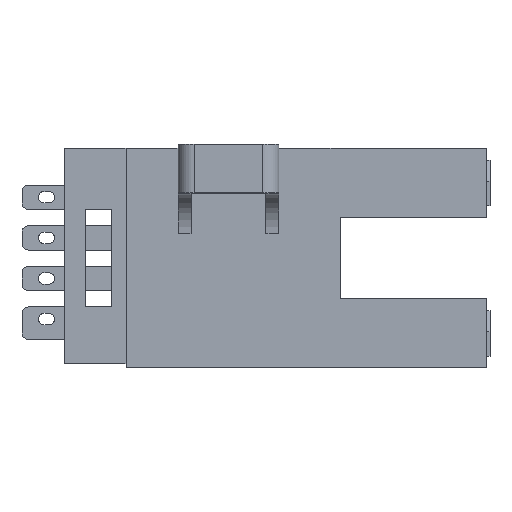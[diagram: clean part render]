
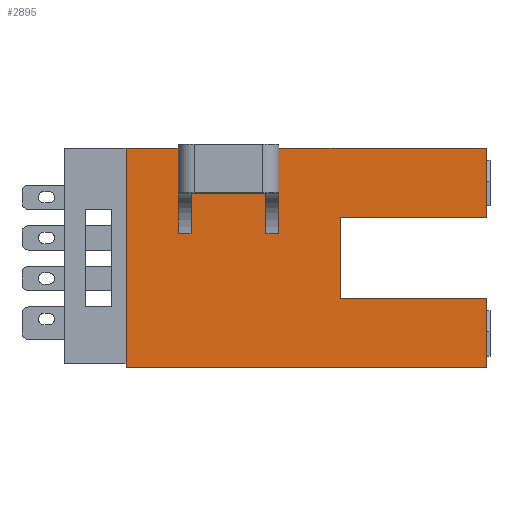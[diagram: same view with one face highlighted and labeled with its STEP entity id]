
A CAD part, top view. The second image highlights one B-rep face of the part: STEP entity #2895.
In plain terms, the highlighted planar face has unit normal (0, 0, 1).
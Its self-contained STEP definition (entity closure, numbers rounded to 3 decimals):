
#25 = CARTESIAN_POINT ( 'NONE',  ( 17.7, -4.65, 6.8 ) ) ;
#32 = VECTOR ( 'NONE', #4372, 1000. ) ;
#133 = VECTOR ( 'NONE', #777, 1000. ) ;
#163 = LINE ( 'NONE', #3323, #4191 ) ;
#191 = VECTOR ( 'NONE', #6926, 1000. ) ;
#227 = VERTEX_POINT ( 'NONE', #4916 ) ;
#247 = PLANE ( 'NONE',  #3575 ) ;
#262 = CARTESIAN_POINT ( 'NONE',  ( 26.7, -0.4, 6.8 ) ) ;
#325 = CARTESIAN_POINT ( 'NONE',  ( 26.7, -4.65, 6.8 ) ) ;
#360 = DIRECTION ( 'NONE',  ( -1., 0., 0. ) ) ;
#478 = CARTESIAN_POINT ( 'NONE',  ( 4.5, -0.4, 6.8 ) ) ;
#777 = DIRECTION ( 'NONE',  ( 0., -1., 0. ) ) ;
#805 = CARTESIAN_POINT ( 'NONE',  ( 13.9, -5.65, 6.8 ) ) ;
#844 = ORIENTED_EDGE ( 'NONE', *, *, #4371, .T. ) ;
#861 = CARTESIAN_POINT ( 'NONE',  ( 7.7, -5.65, 6.8 ) ) ;
#927 = VECTOR ( 'NONE', #3667, 1000. ) ;
#1260 = CARTESIAN_POINT ( 'NONE',  ( 13.1, -5.65, 6.8 ) ) ;
#1352 = LINE ( 'NONE', #7711, #8750 ) ;
#1393 = VECTOR ( 'NONE', #5013, 1000. ) ;
#1420 = LINE ( 'NONE', #9541, #133 ) ;
#1455 = ORIENTED_EDGE ( 'NONE', *, *, #6755, .T. ) ;
#1481 = LINE ( 'NONE', #1260, #6419 ) ;
#1506 = VECTOR ( 'NONE', #5611, 1000. ) ;
#1529 = LINE ( 'NONE', #5378, #4165 ) ;
#1674 = CARTESIAN_POINT ( 'NONE',  ( 17.7, -4.65, 6.8 ) ) ;
#1847 = LINE ( 'NONE', #2034, #8437 ) ;
#1960 = CARTESIAN_POINT ( 'NONE',  ( 13.1, -3.15, 6.8 ) ) ;
#1993 = VERTEX_POINT ( 'NONE', #325 ) ;
#2034 = CARTESIAN_POINT ( 'NONE',  ( 13.9, -0.4, 6.8 ) ) ;
#2075 = EDGE_CURVE ( 'NONE', #3948, #8489, #7493, .T. ) ;
#2088 = ORIENTED_EDGE ( 'NONE', *, *, #6695, .F. ) ;
#2107 = VERTEX_POINT ( 'NONE', #7437 ) ;
#2127 = VERTEX_POINT ( 'NONE', #805 ) ;
#2128 = VECTOR ( 'NONE', #7081, 1000. ) ;
#2139 = EDGE_CURVE ( 'NONE', #3181, #2107, #1420, .T. ) ;
#2172 = CARTESIAN_POINT ( 'NONE',  ( 13.9, -0.4, 6.8 ) ) ;
#2295 = LINE ( 'NONE', #478, #6559 ) ;
#2333 = CARTESIAN_POINT ( 'NONE',  ( 17.7, -9.65, 6.8 ) ) ;
#2472 = ORIENTED_EDGE ( 'NONE', *, *, #9259, .T. ) ;
#2524 = LINE ( 'NONE', #3459, #1506 ) ;
#2581 = CARTESIAN_POINT ( 'NONE',  ( 26.7, -13.9, 6.8 ) ) ;
#2636 = DIRECTION ( 'NONE',  ( 1., 0., 0. ) ) ;
#2653 = DIRECTION ( 'NONE',  ( 1., 0., 0. ) ) ;
#2895 = ADVANCED_FACE ( 'NONE', ( #4163 ), #247, .T. ) ;
#2959 = CARTESIAN_POINT ( 'NONE',  ( 4.5, -0.3, 6.8 ) ) ;
#3097 = VERTEX_POINT ( 'NONE', #8532 ) ;
#3181 = VERTEX_POINT ( 'NONE', #6441 ) ;
#3221 = EDGE_CURVE ( 'NONE', #3097, #7171, #9013, .T. ) ;
#3323 = CARTESIAN_POINT ( 'NONE',  ( 26.7, -4.65, 6.8 ) ) ;
#3381 = EDGE_CURVE ( 'NONE', #5095, #4312, #6681, .T. ) ;
#3459 = CARTESIAN_POINT ( 'NONE',  ( 13.9, -3.15, 6.8 ) ) ;
#3575 = AXIS2_PLACEMENT_3D ( 'NONE', #8439, #8512, #7063 ) ;
#3601 = VERTEX_POINT ( 'NONE', #262 ) ;
#3667 = DIRECTION ( 'NONE',  ( 0., 1., 0. ) ) ;
#3719 = ORIENTED_EDGE ( 'NONE', *, *, #2139, .T. ) ;
#3744 = LINE ( 'NONE', #6295, #8826 ) ;
#3877 = DIRECTION ( 'NONE',  ( -1., 0., 0. ) ) ;
#3948 = VERTEX_POINT ( 'NONE', #6421 ) ;
#3964 = ORIENTED_EDGE ( 'NONE', *, *, #4478, .T. ) ;
#4039 = VECTOR ( 'NONE', #4137, 1000. ) ;
#4127 = CARTESIAN_POINT ( 'NONE',  ( 7.7, -0.4, 6.8 ) ) ;
#4137 = DIRECTION ( 'NONE',  ( 0., -1., 0. ) ) ;
#4163 = FACE_OUTER_BOUND ( 'NONE', #7508, .T. ) ;
#4165 = VECTOR ( 'NONE', #3877, 1000. ) ;
#4191 = VECTOR ( 'NONE', #2636, 1000. ) ;
#4305 = DIRECTION ( 'NONE',  ( -1., 0., 0. ) ) ;
#4312 = VERTEX_POINT ( 'NONE', #861 ) ;
#4371 = EDGE_CURVE ( 'NONE', #5111, #227, #3744, .T. ) ;
#4372 = DIRECTION ( 'NONE',  ( 0., 1., 0. ) ) ;
#4475 = EDGE_CURVE ( 'NONE', #8261, #1993, #163, .T. ) ;
#4478 = EDGE_CURVE ( 'NONE', #1993, #3601, #7894, .T. ) ;
#4495 = VECTOR ( 'NONE', #4305, 1000. ) ;
#4576 = LINE ( 'NONE', #6181, #191 ) ;
#4864 = DIRECTION ( 'NONE',  ( 1., 0., 0. ) ) ;
#4916 = CARTESIAN_POINT ( 'NONE',  ( 26.7, -9.65, 6.8 ) ) ;
#5013 = DIRECTION ( 'NONE',  ( 0., 1., 0. ) ) ;
#5095 = VERTEX_POINT ( 'NONE', #4127 ) ;
#5111 = VERTEX_POINT ( 'NONE', #6268 ) ;
#5364 = VERTEX_POINT ( 'NONE', #2172 ) ;
#5378 = CARTESIAN_POINT ( 'NONE',  ( 26.7, -13.9, 6.8 ) ) ;
#5402 = EDGE_CURVE ( 'NONE', #5563, #8261, #7618, .T. ) ;
#5563 = VERTEX_POINT ( 'NONE', #2333 ) ;
#5611 = DIRECTION ( 'NONE',  ( 0., 1., 0. ) ) ;
#5671 = ORIENTED_EDGE ( 'NONE', *, *, #9131, .F. ) ;
#5820 = CARTESIAN_POINT ( 'NONE',  ( 8.5, -5.65, 6.8 ) ) ;
#5887 = ORIENTED_EDGE ( 'NONE', *, *, #4475, .T. ) ;
#6093 = EDGE_CURVE ( 'NONE', #5111, #3948, #1529, .T. ) ;
#6130 = ORIENTED_EDGE ( 'NONE', *, *, #2075, .F. ) ;
#6181 = CARTESIAN_POINT ( 'NONE',  ( 7.7, -3.15, 6.8 ) ) ;
#6268 = CARTESIAN_POINT ( 'NONE',  ( 26.7, -13.9, 6.8 ) ) ;
#6295 = CARTESIAN_POINT ( 'NONE',  ( 26.7, -13.9, 6.8 ) ) ;
#6409 = DIRECTION ( 'NONE',  ( 1., 0., 0. ) ) ;
#6419 = VECTOR ( 'NONE', #6409, 1000. ) ;
#6421 = CARTESIAN_POINT ( 'NONE',  ( 4.5, -13.9, 6.8 ) ) ;
#6441 = CARTESIAN_POINT ( 'NONE',  ( 8.5, -3.15, 6.8 ) ) ;
#6559 = VECTOR ( 'NONE', #4864, 1000. ) ;
#6640 = ORIENTED_EDGE ( 'NONE', *, *, #7195, .F. ) ;
#6681 = LINE ( 'NONE', #7053, #4039 ) ;
#6695 = EDGE_CURVE ( 'NONE', #2127, #5364, #2524, .T. ) ;
#6755 = EDGE_CURVE ( 'NONE', #2107, #4312, #8667, .T. ) ;
#6926 = DIRECTION ( 'NONE',  ( 1., 0., 0. ) ) ;
#7016 = ORIENTED_EDGE ( 'NONE', *, *, #9514, .F. ) ;
#7047 = ORIENTED_EDGE ( 'NONE', *, *, #3221, .T. ) ;
#7053 = CARTESIAN_POINT ( 'NONE',  ( 7.7, -3.15, 6.8 ) ) ;
#7063 = DIRECTION ( 'NONE',  ( -1., 0., 0. ) ) ;
#7081 = DIRECTION ( 'NONE',  ( 0., 1., 0. ) ) ;
#7128 = ORIENTED_EDGE ( 'NONE', *, *, #6093, .F. ) ;
#7171 = VERTEX_POINT ( 'NONE', #1960 ) ;
#7195 = EDGE_CURVE ( 'NONE', #8489, #5095, #2295, .T. ) ;
#7437 = CARTESIAN_POINT ( 'NONE',  ( 8.5, -5.65, 6.8 ) ) ;
#7493 = LINE ( 'NONE', #2959, #927 ) ;
#7508 = EDGE_LOOP ( 'NONE', ( #6640, #6130, #7128, #844, #2472, #8625, #5887, #3964, #7016, #2088, #8024, #7047, #5671, #3719, #1455, #8483 ) ) ;
#7618 = LINE ( 'NONE', #25, #32 ) ;
#7711 = CARTESIAN_POINT ( 'NONE',  ( 26.7, -9.65, 6.8 ) ) ;
#7894 = LINE ( 'NONE', #2581, #2128 ) ;
#8024 = ORIENTED_EDGE ( 'NONE', *, *, #8511, .F. ) ;
#8057 = CARTESIAN_POINT ( 'NONE',  ( 13.1, -5.65, 6.8 ) ) ;
#8261 = VERTEX_POINT ( 'NONE', #1674 ) ;
#8437 = VECTOR ( 'NONE', #2653, 1000. ) ;
#8439 = CARTESIAN_POINT ( 'NONE',  ( 26.7, -13.9, 6.8 ) ) ;
#8483 = ORIENTED_EDGE ( 'NONE', *, *, #3381, .F. ) ;
#8489 = VERTEX_POINT ( 'NONE', #8659 ) ;
#8511 = EDGE_CURVE ( 'NONE', #3097, #2127, #1481, .T. ) ;
#8512 = DIRECTION ( 'NONE',  ( 0., 0., 1. ) ) ;
#8532 = CARTESIAN_POINT ( 'NONE',  ( 13.1, -5.65, 6.8 ) ) ;
#8625 = ORIENTED_EDGE ( 'NONE', *, *, #5402, .T. ) ;
#8659 = CARTESIAN_POINT ( 'NONE',  ( 4.5, -0.4, 6.8 ) ) ;
#8667 = LINE ( 'NONE', #5820, #4495 ) ;
#8750 = VECTOR ( 'NONE', #360, 1000. ) ;
#8826 = VECTOR ( 'NONE', #9209, 1000. ) ;
#9013 = LINE ( 'NONE', #8057, #1393 ) ;
#9131 = EDGE_CURVE ( 'NONE', #3181, #7171, #4576, .T. ) ;
#9209 = DIRECTION ( 'NONE',  ( 0., 1., 0. ) ) ;
#9259 = EDGE_CURVE ( 'NONE', #227, #5563, #1352, .T. ) ;
#9514 = EDGE_CURVE ( 'NONE', #5364, #3601, #1847, .T. ) ;
#9541 = CARTESIAN_POINT ( 'NONE',  ( 8.5, -5.65, 6.8 ) ) ;
